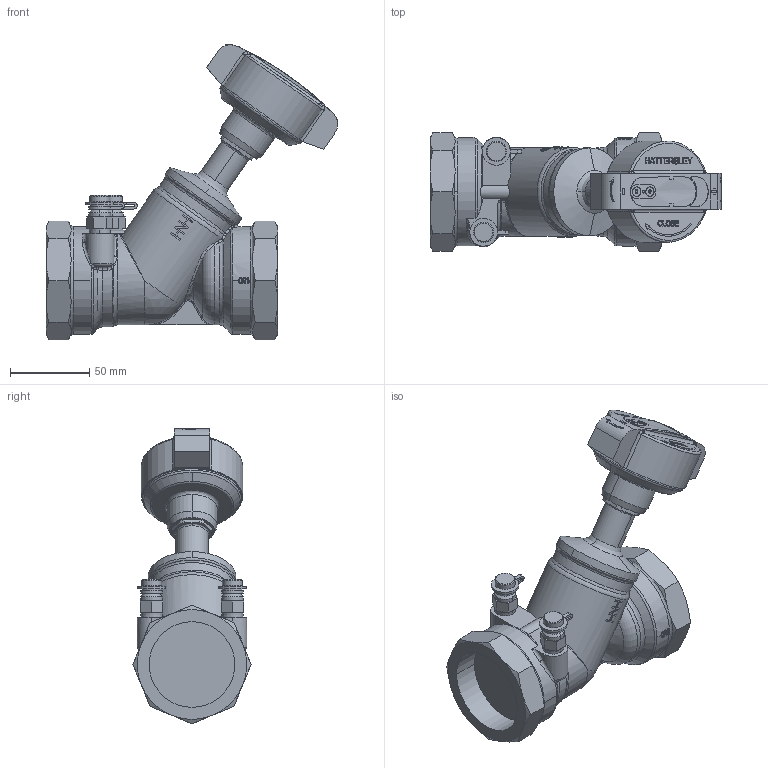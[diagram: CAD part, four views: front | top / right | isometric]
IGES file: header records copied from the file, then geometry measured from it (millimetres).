
Global section: file name: No Iges File Name specified; native system: AutoDesk Inventor R12.0; preprocessor: AutoDesk Inventor Iges Exporter R12.0; date: 20110307.154733; units: millimetre
Bounding box: 184.03 x 74.69 x 186.34 mm (x, y, z)
Volume: 610159 mm3; surface area: 72670.8 mm2
Topology: 1 solids, 1 shells, 1212 faces, 3324 edges, 2171 vertices
Faces by surface type: bspline 680, plane 342, cylinder 90, cone 57, revolution 26, torus 15, sphere 2
